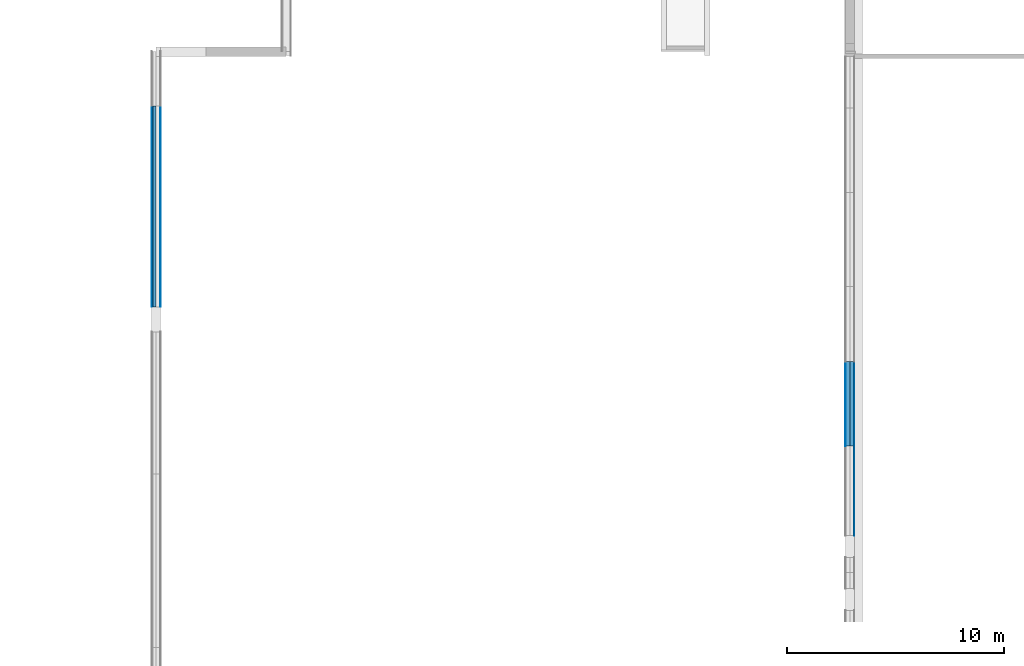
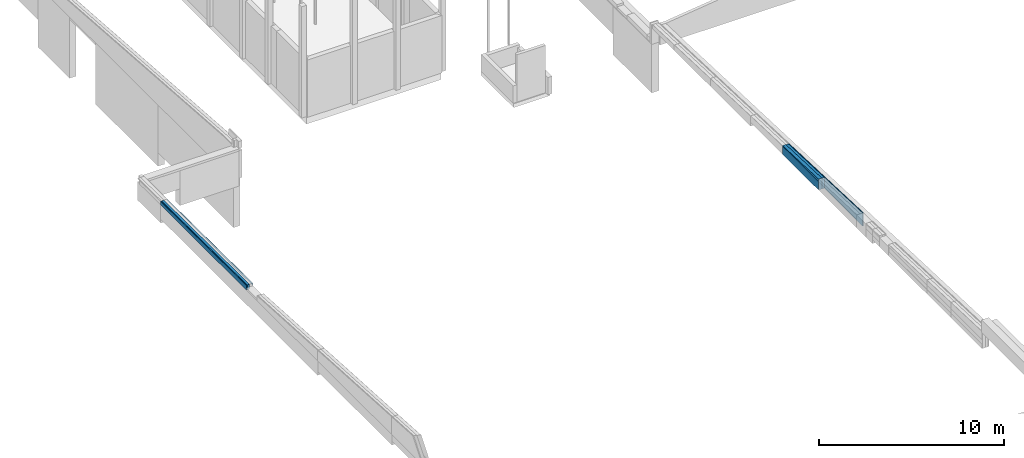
# One storey, part 10 of 17: 11 building element parts, 3 elements without a shape of their own.
"""IFC2X3 building model written with IfcOpenShell, lengths in millimetres."""

from ifc_helpers import new_model, entity, si_unit, converted_unit, derived_unit, money_unit, direction, frame, origin_with_axes, place, context, subcontext, project, spatial, polyline, outline, extrude, boolean, faceted_brep, material, type_object, element, aggregate, save


model = new_model("IFC2X3")

# Units and contexts
model_context = context("Model", 3, precision=0.01, world=origin_with_axes(), true_north=direction((0.0, 1.0)))
body_context = subcontext(model_context, "Body", "Model", "MODEL_VIEW")
ifc_project = project(units=[si_unit("LENGTHUNIT", "METRE", prefix="MILLI"), si_unit("AREAUNIT", "SQUARE_METRE"), si_unit("VOLUMEUNIT", "CUBIC_METRE"), converted_unit("PLANEANGLEUNIT", "DEGREE", entity("IfcPlaneAngleMeasure", 0.0174532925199), si_unit("PLANEANGLEUNIT", "RADIAN"), dimensions=[0, 0, 0, 0, 0, 0, 0]), si_unit("SOLIDANGLEUNIT", "STERADIAN"), money_unit("EUR"), converted_unit("TIMEUNIT", "Year", entity("IfcTimeMeasure", 31556926.0), si_unit("TIMEUNIT", "SECOND"), dimensions=[0, 0, 1, 0, 0, 0, 0]), si_unit("MASSUNIT", "GRAM", prefix="KILO"), si_unit("THERMODYNAMICTEMPERATUREUNIT", "DEGREE_CELSIUS"), si_unit("LUMINOUSINTENSITYUNIT", "LUMEN"), si_unit("ENERGYUNIT", "JOULE", prefix="MEGA"), derived_unit("THERMALCONDUCTANCEUNIT", [(si_unit("POWERUNIT", "WATT"), 1), (si_unit("LENGTHUNIT", "METRE"), -1), (si_unit("THERMODYNAMICTEMPERATUREUNIT", "KELVIN"), -1)]), derived_unit("SPECIFICHEATCAPACITYUNIT", [(si_unit("ENERGYUNIT", "JOULE"), 1), (si_unit("MASSUNIT", "GRAM", prefix="KILO"), -1), (si_unit("THERMODYNAMICTEMPERATUREUNIT", "KELVIN"), -1)]), derived_unit("MASSDENSITYUNIT", [(si_unit("MASSUNIT", "GRAM", prefix="KILO"), 1), (si_unit("VOLUMEUNIT", "CUBIC_METRE"), -1)])], contexts=[model_context])

# Site, building, storey
site_placement = place(None, origin_with_axes())
site = spatial("IfcSite", under=ifc_project, at=site_placement, Name="Puškini 31, Narva", CompositionType="ELEMENT")
building_placement = place(site_placement, origin_with_axes())
building = spatial("IfcBuilding", under=site, at=building_placement, Name="Narva Riigigümnaasium", CompositionType="ELEMENT")
storey_placement = place(building_placement, frame((0.0, 0.0, -6800.0), z_axis=(0.0, 0.0, 1.0), x_axis=(1.0, 0.0, 0.0)))
storey = spatial("IfcBuildingStorey", under=building, at=storey_placement, Name="0.korrus -6.8", CompositionType="ELEMENT", Elevation=-6800.0)

# Wall, building element parts
wall_type = type_object("IfcWallType", Name="G-VS-02 420", PredefinedType="NOTDEFINED")
wall_1_placement = place(storey_placement, frame((54200.000001, 176685.151272, 4630.0), z_axis=(0.0, 0.0, 1.0), x_axis=(0.0, -1.0, 0.0)))
wall_1 = element("IfcWall", 1, at=wall_1_placement, inside=storey, type_object=wall_type, Name="Sisesein")
ifc_material_1 = material(Name="Salto-PIR soojustus")
building_element_part_1_placement = place(wall_1_placement, origin_with_axes())
building_element_part_1 = element("IfcBuildingElementPart", 2, at=building_element_part_1_placement, material=ifc_material_1, Name="Salto-PIR soojustus", context=body_context, shape_type="CSG", body=[
    boolean("DIFFERENCE", boolean("DIFFERENCE", boolean("DIFFERENCE", boolean("DIFFERENCE", boolean("DIFFERENCE", extrude(outline(polyline([(0.0, 150.0), (4125.0, 150.0), (4125.0, 200.0), (0.0, 200.0), (0.0, 150.0)])), origin_with_axes(), (0.0, 0.0, 1.0), 893.645476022), faceted_brep([(4125.0, -200.0, 540.0), (0.0, -200.0, 540.0), (0.0, -200.0, 893.645476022), (4125.0, -200.0, 893.645476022), (4125.0, -200.0, 867.41576605), (3408.80484468, -200.0, 840.0), (4125.0, -200.0, 840.0), (0.0, -210.0, 540.0), (4125.0, -210.0, 540.0), (0.0, -210.0, 893.645476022), (4125.0, -210.0, 893.645476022), (4125.0, -210.0, 867.41576605), (3408.80484468, -210.0, 840.0), (4125.0, -210.0, 840.0)], [[[0, 1, 2, 3, 4, 5, 6]], [[7, 1, 0, 8]], [[1, 7, 9, 2]], [[2, 9, 10, 3]], [[11, 4, 3, 10]], [[5, 4, 11, 12]], [[6, 5, 12, 13]], [[8, 0, 6, 13]], [[7, 8, 13, 12, 11, 10, 9]]])), faceted_brep([(4125.0, 0.0, 867.41576605), (0.0, 0.0, 709.51182867), (0.0, 0.0, 893.645476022), (4125.0, 0.0, 893.645476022), (0.0, -200.0, 709.51182867), (4125.0, -200.0, 867.41576605), (3408.80484468, -200.0, 840.0), (0.0, -200.0, 893.645476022), (4125.0, -200.0, 893.645476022)], [[[0, 1, 2, 3]], [[4, 1, 0, 5, 6]], [[1, 4, 7, 2]], [[2, 7, 8, 3]], [[5, 0, 3, 8]], [[6, 5, 8, 7, 4]]])), faceted_brep([(4125.0, 150.0, 867.41576605), (0.0, 150.0, 709.51182867), (0.0, 150.0, 893.645476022), (4125.0, 150.0, 893.645476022), (0.0, 0.0, 709.51182867), (4125.0, 0.0, 867.41576605), (0.0, 0.0, 893.645476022), (4125.0, 0.0, 893.645476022)], [[[0, 1, 2, 3]], [[4, 1, 0, 5]], [[1, 4, 6, 2]], [[2, 6, 7, 3]], [[5, 0, 3, 7]], [[4, 5, 7, 6]]])), faceted_brep([(4125.0, 200.0, 867.41576605), (0.0, 200.0, 709.51182867), (0.0, 200.0, 893.645476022), (4125.0, 200.0, 893.645476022), (0.0, 150.0, 709.51182867), (4125.0, 150.0, 867.41576605), (0.0, 150.0, 893.645476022), (4125.0, 150.0, 893.645476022)], [[[0, 1, 2, 3]], [[4, 1, 0, 5]], [[1, 4, 6, 2]], [[2, 6, 7, 3]], [[5, 0, 3, 7]], [[4, 5, 7, 6]]])), faceted_brep([(4125.0, 210.0, 867.41576605), (0.0, 210.0, 709.51182867), (0.0, 210.0, 893.645476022), (4125.0, 210.0, 893.645476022), (0.0, 200.0, 709.51182867), (4125.0, 200.0, 867.41576605), (0.0, 200.0, 893.645476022), (4125.0, 200.0, 893.645476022)], [[[0, 1, 2, 3]], [[4, 1, 0, 5]], [[1, 4, 6, 2]], [[2, 6, 7, 3]], [[5, 0, 3, 7]], [[4, 5, 7, 6]]])),
])
ifc_material_2 = material(Name="Krohv")
building_element_part_2_placement = place(wall_1_placement, origin_with_axes())
building_element_part_2 = element("IfcBuildingElementPart", 3, at=building_element_part_2_placement, material=ifc_material_2, Name="Krohv", context=body_context, shape_type="CSG", body=[
    boolean("DIFFERENCE", boolean("DIFFERENCE", boolean("DIFFERENCE", boolean("DIFFERENCE", boolean("DIFFERENCE", extrude(outline(polyline([(0.0, 200.0), (4125.0, 200.0), (4125.0, 210.0), (0.0, 210.0), (0.0, 200.0)])), origin_with_axes(), (0.0, 0.0, 1.0), 893.645476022), faceted_brep([(4125.0, -200.0, 540.0), (0.0, -200.0, 540.0), (0.0, -200.0, 893.645476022), (4125.0, -200.0, 893.645476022), (4125.0, -200.0, 867.41576605), (3408.80484468, -200.0, 840.0), (4125.0, -200.0, 840.0), (0.0, -210.0, 540.0), (4125.0, -210.0, 540.0), (0.0, -210.0, 893.645476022), (4125.0, -210.0, 893.645476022), (4125.0, -210.0, 867.41576605), (3408.80484468, -210.0, 840.0), (4125.0, -210.0, 840.0)], [[[0, 1, 2, 3, 4, 5, 6]], [[7, 1, 0, 8]], [[1, 7, 9, 2]], [[2, 9, 10, 3]], [[11, 4, 3, 10]], [[5, 4, 11, 12]], [[6, 5, 12, 13]], [[8, 0, 6, 13]], [[7, 8, 13, 12, 11, 10, 9]]])), faceted_brep([(4125.0, 0.0, 867.41576605), (0.0, 0.0, 709.51182867), (0.0, 0.0, 893.645476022), (4125.0, 0.0, 893.645476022), (0.0, -200.0, 709.51182867), (4125.0, -200.0, 867.41576605), (3408.80484468, -200.0, 840.0), (0.0, -200.0, 893.645476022), (4125.0, -200.0, 893.645476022)], [[[0, 1, 2, 3]], [[4, 1, 0, 5, 6]], [[1, 4, 7, 2]], [[2, 7, 8, 3]], [[5, 0, 3, 8]], [[6, 5, 8, 7, 4]]])), faceted_brep([(4125.0, 150.0, 867.41576605), (0.0, 150.0, 709.51182867), (0.0, 150.0, 893.645476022), (4125.0, 150.0, 893.645476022), (0.0, 0.0, 709.51182867), (4125.0, 0.0, 867.41576605), (0.0, 0.0, 893.645476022), (4125.0, 0.0, 893.645476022)], [[[0, 1, 2, 3]], [[4, 1, 0, 5]], [[1, 4, 6, 2]], [[2, 6, 7, 3]], [[5, 0, 3, 7]], [[4, 5, 7, 6]]])), faceted_brep([(4125.0, 200.0, 867.41576605), (0.0, 200.0, 709.51182867), (0.0, 200.0, 893.645476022), (4125.0, 200.0, 893.645476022), (0.0, 150.0, 709.51182867), (4125.0, 150.0, 867.41576605), (0.0, 150.0, 893.645476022), (4125.0, 150.0, 893.645476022)], [[[0, 1, 2, 3]], [[4, 1, 0, 5]], [[1, 4, 6, 2]], [[2, 6, 7, 3]], [[5, 0, 3, 7]], [[4, 5, 7, 6]]])), faceted_brep([(4125.0, 210.0, 867.41576605), (0.0, 210.0, 709.51182867), (0.0, 210.0, 893.645476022), (4125.0, 210.0, 893.645476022), (0.0, 200.0, 709.51182867), (4125.0, 200.0, 867.41576605), (0.0, 200.0, 893.645476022), (4125.0, 200.0, 893.645476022)], [[[0, 1, 2, 3]], [[4, 1, 0, 5]], [[1, 4, 6, 2]], [[2, 6, 7, 3]], [[5, 0, 3, 7]], [[4, 5, 7, 6]]])),
])
aggregate(wall_1, [building_element_part_1, building_element_part_2])

wall_2_placement = place(storey_placement, frame((54200.000001, 180585.151272, 4630.0), z_axis=(0.0, 0.0, 1.0), x_axis=(0.0, -1.0, 0.0)))
wall_2 = element("IfcWall", 4, at=wall_2_placement, inside=storey, type_object=wall_type, Name="Sisesein")
ifc_material_3 = material(Name="Salto-siseviimistlus")
building_element_part_3_placement = place(wall_2_placement, origin_with_axes())
building_element_part_3 = element("IfcBuildingElementPart", 5, at=building_element_part_3_placement, material=ifc_material_3, Name="Salto-siseviimistlus", context=body_context, shape_type="CSG", body=[
    boolean("DIFFERENCE", boolean("DIFFERENCE", boolean("DIFFERENCE", boolean("DIFFERENCE", boolean("DIFFERENCE", extrude(outline(polyline([(0.0, -210.0), (3900.0, -210.0), (3900.0, -200.0), (0.0, -200.0), (0.0, -210.0)])), origin_with_axes(), (0.0, 0.0, 1.0), 730.89285896), faceted_brep([(3900.0, -200.0, 540.0), (0.0, -200.0, 540.0), (0.0, -200.0, 730.89285896), (3900.0, -200.0, 730.89285896), (0.0, -210.0, 540.0), (3900.0, -210.0, 540.0), (0.0, -210.0, 730.89285896), (3900.0, -210.0, 730.89285896)], [[[0, 1, 2, 3]], [[4, 1, 0, 5]], [[1, 4, 6, 2]], [[2, 6, 7, 3]], [[5, 0, 3, 7]], [[4, 5, 7, 6]]])), faceted_brep([(3900.0, 0.0, 709.51182867), (0.0, 0.0, 560.220833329), (0.0, 0.0, 730.89285896), (3900.0, 0.0, 730.89285896), (0.0, -200.0, 560.220833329), (3900.0, -200.0, 709.51182867), (0.0, -200.0, 730.89285896), (3900.0, -200.0, 730.89285896)], [[[0, 1, 2, 3]], [[4, 1, 0, 5]], [[1, 4, 6, 2]], [[2, 6, 7, 3]], [[5, 0, 3, 7]], [[4, 5, 7, 6]]])), faceted_brep([(3900.0, 150.0, 709.51182867), (0.0, 150.0, 560.220833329), (0.0, 150.0, 730.89285896), (3900.0, 150.0, 730.89285896), (0.0, 0.0, 560.220833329), (3900.0, 0.0, 709.51182867), (0.0, 0.0, 730.89285896), (3900.0, 0.0, 730.89285896)], [[[0, 1, 2, 3]], [[4, 1, 0, 5]], [[1, 4, 6, 2]], [[2, 6, 7, 3]], [[5, 0, 3, 7]], [[4, 5, 7, 6]]])), faceted_brep([(3900.0, 200.0, 709.51182867), (0.0, 200.0, 560.220833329), (0.0, 200.0, 730.89285896), (3900.0, 200.0, 730.89285896), (0.0, 150.0, 560.220833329), (3900.0, 150.0, 709.51182867), (0.0, 150.0, 730.89285896), (3900.0, 150.0, 730.89285896)], [[[0, 1, 2, 3]], [[4, 1, 0, 5]], [[1, 4, 6, 2]], [[2, 6, 7, 3]], [[5, 0, 3, 7]], [[4, 5, 7, 6]]])), faceted_brep([(3900.0, 210.0, 709.51182867), (0.0, 210.0, 560.220833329), (0.0, 210.0, 730.89285896), (3900.0, 210.0, 730.89285896), (0.0, 200.0, 560.220833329), (3900.0, 200.0, 709.51182867), (0.0, 200.0, 730.89285896), (3900.0, 200.0, 730.89285896)], [[[0, 1, 2, 3]], [[4, 1, 0, 5]], [[1, 4, 6, 2]], [[2, 6, 7, 3]], [[5, 0, 3, 7]], [[4, 5, 7, 6]]])),
])
ifc_material_4 = material(Name="Betoon element")
building_element_part_4_placement = place(wall_2_placement, origin_with_axes())
building_element_part_4 = element("IfcBuildingElementPart", 6, at=building_element_part_4_placement, material=ifc_material_4, Name="Betoon element", context=body_context, shape_type="CSG", body=[
    boolean("DIFFERENCE", boolean("DIFFERENCE", boolean("DIFFERENCE", boolean("DIFFERENCE", boolean("DIFFERENCE", extrude(outline(polyline([(0.0, -200.0), (3900.0, -200.0), (3900.0, 0.0), (0.0, 0.0), (0.0, -200.0)])), origin_with_axes(), (0.0, 0.0, 1.0), 730.89285896), faceted_brep([(3900.0, -200.0, 540.0), (0.0, -200.0, 540.0), (0.0, -200.0, 730.89285896), (3900.0, -200.0, 730.89285896), (0.0, -210.0, 540.0), (3900.0, -210.0, 540.0), (0.0, -210.0, 730.89285896), (3900.0, -210.0, 730.89285896)], [[[0, 1, 2, 3]], [[4, 1, 0, 5]], [[1, 4, 6, 2]], [[2, 6, 7, 3]], [[5, 0, 3, 7]], [[4, 5, 7, 6]]])), faceted_brep([(3900.0, 0.0, 709.51182867), (0.0, 0.0, 560.220833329), (0.0, 0.0, 730.89285896), (3900.0, 0.0, 730.89285896), (0.0, -200.0, 560.220833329), (3900.0, -200.0, 709.51182867), (0.0, -200.0, 730.89285896), (3900.0, -200.0, 730.89285896)], [[[0, 1, 2, 3]], [[4, 1, 0, 5]], [[1, 4, 6, 2]], [[2, 6, 7, 3]], [[5, 0, 3, 7]], [[4, 5, 7, 6]]])), faceted_brep([(3900.0, 150.0, 709.51182867), (0.0, 150.0, 560.220833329), (0.0, 150.0, 730.89285896), (3900.0, 150.0, 730.89285896), (0.0, 0.0, 560.220833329), (3900.0, 0.0, 709.51182867), (0.0, 0.0, 730.89285896), (3900.0, 0.0, 730.89285896)], [[[0, 1, 2, 3]], [[4, 1, 0, 5]], [[1, 4, 6, 2]], [[2, 6, 7, 3]], [[5, 0, 3, 7]], [[4, 5, 7, 6]]])), faceted_brep([(3900.0, 200.0, 709.51182867), (0.0, 200.0, 560.220833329), (0.0, 200.0, 730.89285896), (3900.0, 200.0, 730.89285896), (0.0, 150.0, 560.220833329), (3900.0, 150.0, 709.51182867), (0.0, 150.0, 730.89285896), (3900.0, 150.0, 730.89285896)], [[[0, 1, 2, 3]], [[4, 1, 0, 5]], [[1, 4, 6, 2]], [[2, 6, 7, 3]], [[5, 0, 3, 7]], [[4, 5, 7, 6]]])), faceted_brep([(3900.0, 210.0, 709.51182867), (0.0, 210.0, 560.220833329), (0.0, 210.0, 730.89285896), (3900.0, 210.0, 730.89285896), (0.0, 200.0, 560.220833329), (3900.0, 200.0, 709.51182867), (0.0, 200.0, 730.89285896), (3900.0, 200.0, 730.89285896)], [[[0, 1, 2, 3]], [[4, 1, 0, 5]], [[1, 4, 6, 2]], [[2, 6, 7, 3]], [[5, 0, 3, 7]], [[4, 5, 7, 6]]])),
])
building_element_part_5_placement = place(wall_2_placement, origin_with_axes())
building_element_part_5 = element("IfcBuildingElementPart", 7, at=building_element_part_5_placement, material=ifc_material_1, Name="Salto-PIR soojustus", context=body_context, shape_type="CSG", body=[
    boolean("DIFFERENCE", boolean("DIFFERENCE", boolean("DIFFERENCE", boolean("DIFFERENCE", boolean("DIFFERENCE", extrude(outline(polyline([(0.0, 0.0), (3900.0, 0.0), (3900.0, 150.0), (0.0, 150.0), (0.0, 0.0)])), origin_with_axes(), (0.0, 0.0, 1.0), 730.89285896), faceted_brep([(3900.0, -200.0, 540.0), (0.0, -200.0, 540.0), (0.0, -200.0, 730.89285896), (3900.0, -200.0, 730.89285896), (0.0, -210.0, 540.0), (3900.0, -210.0, 540.0), (0.0, -210.0, 730.89285896), (3900.0, -210.0, 730.89285896)], [[[0, 1, 2, 3]], [[4, 1, 0, 5]], [[1, 4, 6, 2]], [[2, 6, 7, 3]], [[5, 0, 3, 7]], [[4, 5, 7, 6]]])), faceted_brep([(3900.0, 0.0, 709.51182867), (0.0, 0.0, 560.220833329), (0.0, 0.0, 730.89285896), (3900.0, 0.0, 730.89285896), (0.0, -200.0, 560.220833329), (3900.0, -200.0, 709.51182867), (0.0, -200.0, 730.89285896), (3900.0, -200.0, 730.89285896)], [[[0, 1, 2, 3]], [[4, 1, 0, 5]], [[1, 4, 6, 2]], [[2, 6, 7, 3]], [[5, 0, 3, 7]], [[4, 5, 7, 6]]])), faceted_brep([(3900.0, 150.0, 709.51182867), (0.0, 150.0, 560.220833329), (0.0, 150.0, 730.89285896), (3900.0, 150.0, 730.89285896), (0.0, 0.0, 560.220833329), (3900.0, 0.0, 709.51182867), (0.0, 0.0, 730.89285896), (3900.0, 0.0, 730.89285896)], [[[0, 1, 2, 3]], [[4, 1, 0, 5]], [[1, 4, 6, 2]], [[2, 6, 7, 3]], [[5, 0, 3, 7]], [[4, 5, 7, 6]]])), faceted_brep([(3900.0, 200.0, 709.51182867), (0.0, 200.0, 560.220833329), (0.0, 200.0, 730.89285896), (3900.0, 200.0, 730.89285896), (0.0, 150.0, 560.220833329), (3900.0, 150.0, 709.51182867), (0.0, 150.0, 730.89285896), (3900.0, 150.0, 730.89285896)], [[[0, 1, 2, 3]], [[4, 1, 0, 5]], [[1, 4, 6, 2]], [[2, 6, 7, 3]], [[5, 0, 3, 7]], [[4, 5, 7, 6]]])), faceted_brep([(3900.0, 210.0, 709.51182867), (0.0, 210.0, 560.220833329), (0.0, 210.0, 730.89285896), (3900.0, 210.0, 730.89285896), (0.0, 200.0, 560.220833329), (3900.0, 200.0, 709.51182867), (0.0, 200.0, 730.89285896), (3900.0, 200.0, 730.89285896)], [[[0, 1, 2, 3]], [[4, 1, 0, 5]], [[1, 4, 6, 2]], [[2, 6, 7, 3]], [[5, 0, 3, 7]], [[4, 5, 7, 6]]])),
])
building_element_part_6_placement = place(wall_2_placement, origin_with_axes())
building_element_part_6 = element("IfcBuildingElementPart", 8, at=building_element_part_6_placement, material=ifc_material_1, Name="Salto-PIR soojustus", context=body_context, shape_type="CSG", body=[
    boolean("DIFFERENCE", boolean("DIFFERENCE", boolean("DIFFERENCE", boolean("DIFFERENCE", boolean("DIFFERENCE", extrude(outline(polyline([(0.0, 150.0), (3900.0, 150.0), (3900.0, 200.0), (0.0, 200.0), (0.0, 150.0)])), origin_with_axes(), (0.0, 0.0, 1.0), 730.89285896), faceted_brep([(3900.0, -200.0, 540.0), (0.0, -200.0, 540.0), (0.0, -200.0, 730.89285896), (3900.0, -200.0, 730.89285896), (0.0, -210.0, 540.0), (3900.0, -210.0, 540.0), (0.0, -210.0, 730.89285896), (3900.0, -210.0, 730.89285896)], [[[0, 1, 2, 3]], [[4, 1, 0, 5]], [[1, 4, 6, 2]], [[2, 6, 7, 3]], [[5, 0, 3, 7]], [[4, 5, 7, 6]]])), faceted_brep([(3900.0, 0.0, 709.51182867), (0.0, 0.0, 560.220833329), (0.0, 0.0, 730.89285896), (3900.0, 0.0, 730.89285896), (0.0, -200.0, 560.220833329), (3900.0, -200.0, 709.51182867), (0.0, -200.0, 730.89285896), (3900.0, -200.0, 730.89285896)], [[[0, 1, 2, 3]], [[4, 1, 0, 5]], [[1, 4, 6, 2]], [[2, 6, 7, 3]], [[5, 0, 3, 7]], [[4, 5, 7, 6]]])), faceted_brep([(3900.0, 150.0, 709.51182867), (0.0, 150.0, 560.220833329), (0.0, 150.0, 730.89285896), (3900.0, 150.0, 730.89285896), (0.0, 0.0, 560.220833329), (3900.0, 0.0, 709.51182867), (0.0, 0.0, 730.89285896), (3900.0, 0.0, 730.89285896)], [[[0, 1, 2, 3]], [[4, 1, 0, 5]], [[1, 4, 6, 2]], [[2, 6, 7, 3]], [[5, 0, 3, 7]], [[4, 5, 7, 6]]])), faceted_brep([(3900.0, 200.0, 709.51182867), (0.0, 200.0, 560.220833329), (0.0, 200.0, 730.89285896), (3900.0, 200.0, 730.89285896), (0.0, 150.0, 560.220833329), (3900.0, 150.0, 709.51182867), (0.0, 150.0, 730.89285896), (3900.0, 150.0, 730.89285896)], [[[0, 1, 2, 3]], [[4, 1, 0, 5]], [[1, 4, 6, 2]], [[2, 6, 7, 3]], [[5, 0, 3, 7]], [[4, 5, 7, 6]]])), faceted_brep([(3900.0, 210.0, 709.51182867), (0.0, 210.0, 560.220833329), (0.0, 210.0, 730.89285896), (3900.0, 210.0, 730.89285896), (0.0, 200.0, 560.220833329), (3900.0, 200.0, 709.51182867), (0.0, 200.0, 730.89285896), (3900.0, 200.0, 730.89285896)], [[[0, 1, 2, 3]], [[4, 1, 0, 5]], [[1, 4, 6, 2]], [[2, 6, 7, 3]], [[5, 0, 3, 7]], [[4, 5, 7, 6]]])),
])
building_element_part_7_placement = place(wall_2_placement, origin_with_axes())
building_element_part_7 = element("IfcBuildingElementPart", 9, at=building_element_part_7_placement, material=ifc_material_2, Name="Krohv", context=body_context, shape_type="CSG", body=[
    boolean("DIFFERENCE", boolean("DIFFERENCE", boolean("DIFFERENCE", boolean("DIFFERENCE", boolean("DIFFERENCE", extrude(outline(polyline([(0.0, 200.0), (3900.0, 200.0), (3900.0, 210.0), (0.0, 210.0), (0.0, 200.0)])), origin_with_axes(), (0.0, 0.0, 1.0), 730.89285896), faceted_brep([(3900.0, -200.0, 540.0), (0.0, -200.0, 540.0), (0.0, -200.0, 730.89285896), (3900.0, -200.0, 730.89285896), (0.0, -210.0, 540.0), (3900.0, -210.0, 540.0), (0.0, -210.0, 730.89285896), (3900.0, -210.0, 730.89285896)], [[[0, 1, 2, 3]], [[4, 1, 0, 5]], [[1, 4, 6, 2]], [[2, 6, 7, 3]], [[5, 0, 3, 7]], [[4, 5, 7, 6]]])), faceted_brep([(3900.0, 0.0, 709.51182867), (0.0, 0.0, 560.220833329), (0.0, 0.0, 730.89285896), (3900.0, 0.0, 730.89285896), (0.0, -200.0, 560.220833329), (3900.0, -200.0, 709.51182867), (0.0, -200.0, 730.89285896), (3900.0, -200.0, 730.89285896)], [[[0, 1, 2, 3]], [[4, 1, 0, 5]], [[1, 4, 6, 2]], [[2, 6, 7, 3]], [[5, 0, 3, 7]], [[4, 5, 7, 6]]])), faceted_brep([(3900.0, 150.0, 709.51182867), (0.0, 150.0, 560.220833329), (0.0, 150.0, 730.89285896), (3900.0, 150.0, 730.89285896), (0.0, 0.0, 560.220833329), (3900.0, 0.0, 709.51182867), (0.0, 0.0, 730.89285896), (3900.0, 0.0, 730.89285896)], [[[0, 1, 2, 3]], [[4, 1, 0, 5]], [[1, 4, 6, 2]], [[2, 6, 7, 3]], [[5, 0, 3, 7]], [[4, 5, 7, 6]]])), faceted_brep([(3900.0, 200.0, 709.51182867), (0.0, 200.0, 560.220833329), (0.0, 200.0, 730.89285896), (3900.0, 200.0, 730.89285896), (0.0, 150.0, 560.220833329), (3900.0, 150.0, 709.51182867), (0.0, 150.0, 730.89285896), (3900.0, 150.0, 730.89285896)], [[[0, 1, 2, 3]], [[4, 1, 0, 5]], [[1, 4, 6, 2]], [[2, 6, 7, 3]], [[5, 0, 3, 7]], [[4, 5, 7, 6]]])), faceted_brep([(3900.0, 210.0, 709.51182867), (0.0, 210.0, 560.220833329), (0.0, 210.0, 730.89285896), (3900.0, 210.0, 730.89285896), (0.0, 200.0, 560.220833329), (3900.0, 200.0, 709.51182867), (0.0, 200.0, 730.89285896), (3900.0, 200.0, 730.89285896)], [[[0, 1, 2, 3]], [[4, 1, 0, 5]], [[1, 4, 6, 2]], [[2, 6, 7, 3]], [[5, 0, 3, 7]], [[4, 5, 7, 6]]])),
])
aggregate(wall_2, [building_element_part_3, building_element_part_4, building_element_part_5, building_element_part_6, building_element_part_7])

wall_3_placement = place(storey_placement, frame((22199.9999985, 183110.149991, 5330.0), z_axis=(0.0, 0.0, 1.0), x_axis=(0.0, 1.0, 0.0)))
wall_3 = element("IfcWall", 10, at=wall_3_placement, inside=storey, type_object=wall_type, Name="Sisesein")
building_element_part_8_placement = place(wall_3_placement, origin_with_axes())
building_element_part_8 = element("IfcBuildingElementPart", 11, at=building_element_part_8_placement, material=ifc_material_3, Name="Salto-siseviimistlus", context=body_context, shape_type="CSG", body=[
    boolean("DIFFERENCE", boolean("DIFFERENCE", boolean("DIFFERENCE", boolean("DIFFERENCE", boolean("DIFFERENCE", boolean("DIFFERENCE", extrude(outline(polyline([(0.0, -210.0), (9269.85000857, -210.0), (9269.85000857, -200.0), (0.0, -200.0), (0.0, -210.0)])), origin_with_axes(), (0.0, 0.0, 1.0), 500.0), faceted_brep([(9269.85000857, -200.0, 150.0), (9269.85000857, -210.0, 150.0), (9269.85000857, -210.0, 0.0), (9269.85000857, -200.0, 0.0), (9069.85000856, -210.0, 150.0), (9069.85000856, -200.0, 150.0), (9069.85000856, -210.0, 140.0), (0.0, -210.0, 140.0), (0.0, -210.0, 0.0), (0.0, -200.0, 0.0), (0.0, -200.0, 140.0), (9069.85000856, -200.0, 140.0)], [[[0, 1, 2, 3]], [[4, 1, 0, 5]], [[6, 7, 8, 2, 1, 4]], [[2, 8, 9, 3]], [[5, 0, 3, 9, 10, 11]], [[6, 4, 5, 11]], [[7, 6, 11, 10]], [[7, 10, 9, 8]]])), faceted_brep([(0.0, -210.0, 315.342716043), (9269.85000857, -210.0, 242.144862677), (9269.85000857, -210.0, 500.0), (0.0, -210.0, 500.0), (9269.85000857, -200.0, 242.144862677), (0.0, -200.0, 315.342716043), (9269.85000857, -200.0, 500.0), (0.0, -200.0, 500.0)], [[[0, 1, 2, 3]], [[4, 1, 0, 5]], [[1, 4, 6, 2]], [[7, 3, 2, 6]], [[5, 0, 3, 7]], [[4, 5, 7, 6]]])), faceted_brep([(0.0, -200.0, 315.342716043), (9269.85000857, -200.0, 242.144862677), (9269.85000857, -200.0, 500.0), (0.0, -200.0, 500.0), (9269.85000857, 0.0, 242.144862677), (0.0, 0.0, 315.342716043), (9269.85000857, 0.0, 500.0), (0.0, 0.0, 500.0)], [[[0, 1, 2, 3]], [[4, 1, 0, 5]], [[1, 4, 6, 2]], [[7, 3, 2, 6]], [[5, 0, 3, 7]], [[4, 5, 7, 6]]])), faceted_brep([(0.0, 0.0, 315.342716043), (9269.85000857, 0.0, 242.144862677), (9269.85000857, 0.0, 500.0), (0.0, 0.0, 500.0), (9269.85000857, 150.0, 242.144862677), (0.0, 150.0, 315.342716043), (9269.85000857, 150.0, 500.0), (0.0, 150.0, 500.0)], [[[0, 1, 2, 3]], [[4, 1, 0, 5]], [[1, 4, 6, 2]], [[7, 3, 2, 6]], [[5, 0, 3, 7]], [[4, 5, 7, 6]]])), faceted_brep([(0.0, 150.0, 315.342716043), (9269.85000857, 150.0, 242.144862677), (9269.85000857, 150.0, 500.0), (0.0, 150.0, 500.0), (9269.85000857, 200.0, 242.144862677), (0.0, 200.0, 315.342716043), (9269.85000857, 200.0, 500.0), (0.0, 200.0, 500.0)], [[[0, 1, 2, 3]], [[4, 1, 0, 5]], [[1, 4, 6, 2]], [[7, 3, 2, 6]], [[5, 0, 3, 7]], [[4, 5, 7, 6]]])), faceted_brep([(0.0, 200.0, 315.342716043), (9269.85000857, 200.0, 242.144862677), (9269.85000857, 200.0, 500.0), (0.0, 200.0, 500.0), (9269.85000857, 210.0, 242.144862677), (0.0, 210.0, 315.342716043), (9269.85000857, 210.0, 500.0), (0.0, 210.0, 500.0)], [[[0, 1, 2, 3]], [[4, 1, 0, 5]], [[1, 4, 6, 2]], [[7, 3, 2, 6]], [[5, 0, 3, 7]], [[4, 5, 7, 6]]])),
])
building_element_part_9_placement = place(wall_3_placement, origin_with_axes())
building_element_part_9 = element("IfcBuildingElementPart", 12, at=building_element_part_9_placement, material=ifc_material_1, Name="Salto-PIR soojustus", context=body_context, shape_type="CSG", body=[
    boolean("DIFFERENCE", boolean("DIFFERENCE", boolean("DIFFERENCE", boolean("DIFFERENCE", boolean("DIFFERENCE", boolean("DIFFERENCE", extrude(outline(polyline([(0.0, 0.0), (9269.85000857, 0.0), (9269.85000857, 150.0), (0.0, 150.0), (0.0, 0.0)])), origin_with_axes(), (0.0, 0.0, 1.0), 500.0), faceted_brep([(9269.85000857, -200.0, 150.0), (9269.85000857, -210.0, 150.0), (9269.85000857, -210.0, 0.0), (9269.85000857, -200.0, 0.0), (9069.85000856, -210.0, 150.0), (9069.85000856, -200.0, 150.0), (9069.85000856, -210.0, 140.0), (0.0, -210.0, 140.0), (0.0, -210.0, 0.0), (0.0, -200.0, 0.0), (0.0, -200.0, 140.0), (9069.85000856, -200.0, 140.0)], [[[0, 1, 2, 3]], [[4, 1, 0, 5]], [[6, 7, 8, 2, 1, 4]], [[2, 8, 9, 3]], [[5, 0, 3, 9, 10, 11]], [[6, 4, 5, 11]], [[7, 6, 11, 10]], [[7, 10, 9, 8]]])), faceted_brep([(0.0, -210.0, 315.342716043), (9269.85000857, -210.0, 242.144862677), (9269.85000857, -210.0, 500.0), (0.0, -210.0, 500.0), (9269.85000857, -200.0, 242.144862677), (0.0, -200.0, 315.342716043), (9269.85000857, -200.0, 500.0), (0.0, -200.0, 500.0)], [[[0, 1, 2, 3]], [[4, 1, 0, 5]], [[1, 4, 6, 2]], [[7, 3, 2, 6]], [[5, 0, 3, 7]], [[4, 5, 7, 6]]])), faceted_brep([(0.0, -200.0, 315.342716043), (9269.85000857, -200.0, 242.144862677), (9269.85000857, -200.0, 500.0), (0.0, -200.0, 500.0), (9269.85000857, 0.0, 242.144862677), (0.0, 0.0, 315.342716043), (9269.85000857, 0.0, 500.0), (0.0, 0.0, 500.0)], [[[0, 1, 2, 3]], [[4, 1, 0, 5]], [[1, 4, 6, 2]], [[7, 3, 2, 6]], [[5, 0, 3, 7]], [[4, 5, 7, 6]]])), faceted_brep([(0.0, 0.0, 315.342716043), (9269.85000857, 0.0, 242.144862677), (9269.85000857, 0.0, 500.0), (0.0, 0.0, 500.0), (9269.85000857, 150.0, 242.144862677), (0.0, 150.0, 315.342716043), (9269.85000857, 150.0, 500.0), (0.0, 150.0, 500.0)], [[[0, 1, 2, 3]], [[4, 1, 0, 5]], [[1, 4, 6, 2]], [[7, 3, 2, 6]], [[5, 0, 3, 7]], [[4, 5, 7, 6]]])), faceted_brep([(0.0, 150.0, 315.342716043), (9269.85000857, 150.0, 242.144862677), (9269.85000857, 150.0, 500.0), (0.0, 150.0, 500.0), (9269.85000857, 200.0, 242.144862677), (0.0, 200.0, 315.342716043), (9269.85000857, 200.0, 500.0), (0.0, 200.0, 500.0)], [[[0, 1, 2, 3]], [[4, 1, 0, 5]], [[1, 4, 6, 2]], [[7, 3, 2, 6]], [[5, 0, 3, 7]], [[4, 5, 7, 6]]])), faceted_brep([(0.0, 200.0, 315.342716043), (9269.85000857, 200.0, 242.144862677), (9269.85000857, 200.0, 500.0), (0.0, 200.0, 500.0), (9269.85000857, 210.0, 242.144862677), (0.0, 210.0, 315.342716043), (9269.85000857, 210.0, 500.0), (0.0, 210.0, 500.0)], [[[0, 1, 2, 3]], [[4, 1, 0, 5]], [[1, 4, 6, 2]], [[7, 3, 2, 6]], [[5, 0, 3, 7]], [[4, 5, 7, 6]]])),
])
building_element_part_10_placement = place(wall_3_placement, origin_with_axes())
building_element_part_10 = element("IfcBuildingElementPart", 13, at=building_element_part_10_placement, material=ifc_material_1, Name="Salto-PIR soojustus", context=body_context, shape_type="CSG", body=[
    boolean("DIFFERENCE", boolean("DIFFERENCE", boolean("DIFFERENCE", boolean("DIFFERENCE", boolean("DIFFERENCE", boolean("DIFFERENCE", extrude(outline(polyline([(0.0, 150.0), (9269.85000857, 150.0), (9269.85000857, 200.0), (0.0, 200.0), (0.0, 150.0)])), origin_with_axes(), (0.0, 0.0, 1.0), 500.0), faceted_brep([(9269.85000857, -200.0, 150.0), (9269.85000857, -210.0, 150.0), (9269.85000857, -210.0, 0.0), (9269.85000857, -200.0, 0.0), (9069.85000856, -210.0, 150.0), (9069.85000856, -200.0, 150.0), (9069.85000856, -210.0, 140.0), (0.0, -210.0, 140.0), (0.0, -210.0, 0.0), (0.0, -200.0, 0.0), (0.0, -200.0, 140.0), (9069.85000856, -200.0, 140.0)], [[[0, 1, 2, 3]], [[4, 1, 0, 5]], [[6, 7, 8, 2, 1, 4]], [[2, 8, 9, 3]], [[5, 0, 3, 9, 10, 11]], [[6, 4, 5, 11]], [[7, 6, 11, 10]], [[7, 10, 9, 8]]])), faceted_brep([(0.0, -210.0, 315.342716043), (9269.85000857, -210.0, 242.144862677), (9269.85000857, -210.0, 500.0), (0.0, -210.0, 500.0), (9269.85000857, -200.0, 242.144862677), (0.0, -200.0, 315.342716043), (9269.85000857, -200.0, 500.0), (0.0, -200.0, 500.0)], [[[0, 1, 2, 3]], [[4, 1, 0, 5]], [[1, 4, 6, 2]], [[7, 3, 2, 6]], [[5, 0, 3, 7]], [[4, 5, 7, 6]]])), faceted_brep([(0.0, -200.0, 315.342716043), (9269.85000857, -200.0, 242.144862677), (9269.85000857, -200.0, 500.0), (0.0, -200.0, 500.0), (9269.85000857, 0.0, 242.144862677), (0.0, 0.0, 315.342716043), (9269.85000857, 0.0, 500.0), (0.0, 0.0, 500.0)], [[[0, 1, 2, 3]], [[4, 1, 0, 5]], [[1, 4, 6, 2]], [[7, 3, 2, 6]], [[5, 0, 3, 7]], [[4, 5, 7, 6]]])), faceted_brep([(0.0, 0.0, 315.342716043), (9269.85000857, 0.0, 242.144862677), (9269.85000857, 0.0, 500.0), (0.0, 0.0, 500.0), (9269.85000857, 150.0, 242.144862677), (0.0, 150.0, 315.342716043), (9269.85000857, 150.0, 500.0), (0.0, 150.0, 500.0)], [[[0, 1, 2, 3]], [[4, 1, 0, 5]], [[1, 4, 6, 2]], [[7, 3, 2, 6]], [[5, 0, 3, 7]], [[4, 5, 7, 6]]])), faceted_brep([(0.0, 150.0, 315.342716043), (9269.85000857, 150.0, 242.144862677), (9269.85000857, 150.0, 500.0), (0.0, 150.0, 500.0), (9269.85000857, 200.0, 242.144862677), (0.0, 200.0, 315.342716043), (9269.85000857, 200.0, 500.0), (0.0, 200.0, 500.0)], [[[0, 1, 2, 3]], [[4, 1, 0, 5]], [[1, 4, 6, 2]], [[7, 3, 2, 6]], [[5, 0, 3, 7]], [[4, 5, 7, 6]]])), faceted_brep([(0.0, 200.0, 315.342716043), (9269.85000857, 200.0, 242.144862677), (9269.85000857, 200.0, 500.0), (0.0, 200.0, 500.0), (9269.85000857, 210.0, 242.144862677), (0.0, 210.0, 315.342716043), (9269.85000857, 210.0, 500.0), (0.0, 210.0, 500.0)], [[[0, 1, 2, 3]], [[4, 1, 0, 5]], [[1, 4, 6, 2]], [[7, 3, 2, 6]], [[5, 0, 3, 7]], [[4, 5, 7, 6]]])),
])
building_element_part_11_placement = place(wall_3_placement, origin_with_axes())
building_element_part_11 = element("IfcBuildingElementPart", 14, at=building_element_part_11_placement, material=ifc_material_2, Name="Krohv", context=body_context, shape_type="CSG", body=[
    boolean("DIFFERENCE", boolean("DIFFERENCE", boolean("DIFFERENCE", boolean("DIFFERENCE", boolean("DIFFERENCE", boolean("DIFFERENCE", extrude(outline(polyline([(0.0, 200.0), (9269.85000857, 200.0), (9269.85000857, 210.0), (0.0, 210.0), (0.0, 200.0)])), origin_with_axes(), (0.0, 0.0, 1.0), 500.0), faceted_brep([(9269.85000857, -200.0, 150.0), (9269.85000857, -210.0, 150.0), (9269.85000857, -210.0, 0.0), (9269.85000857, -200.0, 0.0), (9069.85000856, -210.0, 150.0), (9069.85000856, -200.0, 150.0), (9069.85000856, -210.0, 140.0), (0.0, -210.0, 140.0), (0.0, -210.0, 0.0), (0.0, -200.0, 0.0), (0.0, -200.0, 140.0), (9069.85000856, -200.0, 140.0)], [[[0, 1, 2, 3]], [[4, 1, 0, 5]], [[6, 7, 8, 2, 1, 4]], [[2, 8, 9, 3]], [[5, 0, 3, 9, 10, 11]], [[6, 4, 5, 11]], [[7, 6, 11, 10]], [[7, 10, 9, 8]]])), faceted_brep([(0.0, -210.0, 315.342716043), (9269.85000857, -210.0, 242.144862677), (9269.85000857, -210.0, 500.0), (0.0, -210.0, 500.0), (9269.85000857, -200.0, 242.144862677), (0.0, -200.0, 315.342716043), (9269.85000857, -200.0, 500.0), (0.0, -200.0, 500.0)], [[[0, 1, 2, 3]], [[4, 1, 0, 5]], [[1, 4, 6, 2]], [[7, 3, 2, 6]], [[5, 0, 3, 7]], [[4, 5, 7, 6]]])), faceted_brep([(0.0, -200.0, 315.342716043), (9269.85000857, -200.0, 242.144862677), (9269.85000857, -200.0, 500.0), (0.0, -200.0, 500.0), (9269.85000857, 0.0, 242.144862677), (0.0, 0.0, 315.342716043), (9269.85000857, 0.0, 500.0), (0.0, 0.0, 500.0)], [[[0, 1, 2, 3]], [[4, 1, 0, 5]], [[1, 4, 6, 2]], [[7, 3, 2, 6]], [[5, 0, 3, 7]], [[4, 5, 7, 6]]])), faceted_brep([(0.0, 0.0, 315.342716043), (9269.85000857, 0.0, 242.144862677), (9269.85000857, 0.0, 500.0), (0.0, 0.0, 500.0), (9269.85000857, 150.0, 242.144862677), (0.0, 150.0, 315.342716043), (9269.85000857, 150.0, 500.0), (0.0, 150.0, 500.0)], [[[0, 1, 2, 3]], [[4, 1, 0, 5]], [[1, 4, 6, 2]], [[7, 3, 2, 6]], [[5, 0, 3, 7]], [[4, 5, 7, 6]]])), faceted_brep([(0.0, 150.0, 315.342716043), (9269.85000857, 150.0, 242.144862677), (9269.85000857, 150.0, 500.0), (0.0, 150.0, 500.0), (9269.85000857, 200.0, 242.144862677), (0.0, 200.0, 315.342716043), (9269.85000857, 200.0, 500.0), (0.0, 200.0, 500.0)], [[[0, 1, 2, 3]], [[4, 1, 0, 5]], [[1, 4, 6, 2]], [[7, 3, 2, 6]], [[5, 0, 3, 7]], [[4, 5, 7, 6]]])), faceted_brep([(0.0, 200.0, 315.342716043), (9269.85000857, 200.0, 242.144862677), (9269.85000857, 200.0, 500.0), (0.0, 200.0, 500.0), (9269.85000857, 210.0, 242.144862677), (0.0, 210.0, 315.342716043), (9269.85000857, 210.0, 500.0), (0.0, 210.0, 500.0)], [[[0, 1, 2, 3]], [[4, 1, 0, 5]], [[1, 4, 6, 2]], [[7, 3, 2, 6]], [[5, 0, 3, 7]], [[4, 5, 7, 6]]])),
])
aggregate(wall_3, [building_element_part_8, building_element_part_9, building_element_part_10, building_element_part_11])

save(model, "model.ifc")
